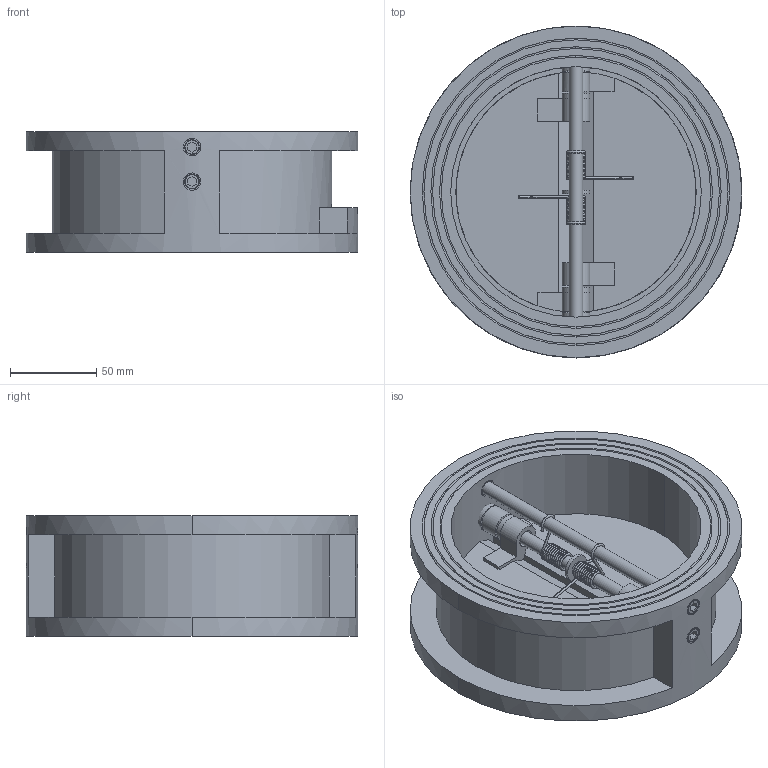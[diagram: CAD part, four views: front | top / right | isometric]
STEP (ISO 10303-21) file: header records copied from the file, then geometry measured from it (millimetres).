
FILE_DESCRIPTION((''),'2;1');
FILE_NAME('CV-16WS_SB_ASM','2026-03-23T',('user'),(''),'PRO/ENGINEER BY PARAMETRIC TECHNOLOGY CORPORATION, 2011220','PRO/ENGINEER BY PARAMETRIC TECHNOLOGY CORPORATION, 2011220','');
FILE_SCHEMA(('CONFIG_CONTROL_DESIGN'));
Length unit declared in the file: millimetre
Products named in the file (11): CV-16WS_KORPUS; CV-16WS_DET_2; CV-16WS_DET_3; CV-16WS_DET_4_SHTOK; CV-16WS_DET_5; CV-16WS_DET_6; CV-16WS_DET_7; CV-16WS_DET_8; CV-16WS_DET_9; CV-16WS_DET_10; CV-16WS_SB_ASM
Assembly tree (22 placements, depth 2):
  CV-16WS_SB_ASM
    CV-16WS_KORPUS
    CV-16WS_DET_2  x2
    CV-16WS_DET_3  x2
    CV-16WS_DET_4_SHTOK  x2
    CV-16WS_DET_5  x2
    CV-16WS_DET_6  x2
    CV-16WS_DET_7  x4
    CV-16WS_DET_8  x4
    CV-16WS_DET_9  x2
    CV-16WS_DET_10
Bounding box: 192 x 192 x 70 mm (x, y, z)
Volume: 778459.5 mm3; surface area: 212025 mm2
Topology: 22 solids, 30 shells, 311 faces, 720 edges, 468 vertices
Faces by surface type: plane 143, cylinder 122, torus 24, bspline 12, cone 6, revolution 4
Entity records: 9544 total; most frequent: CARTESIAN_POINT 4771, DIRECTION 1007, ORIENTED_EDGE 866, EDGE_CURVE 447, AXIS2_PLACEMENT_3D 404, VERTEX_POINT 292, EDGE_LOOP 229, VECTOR 197
